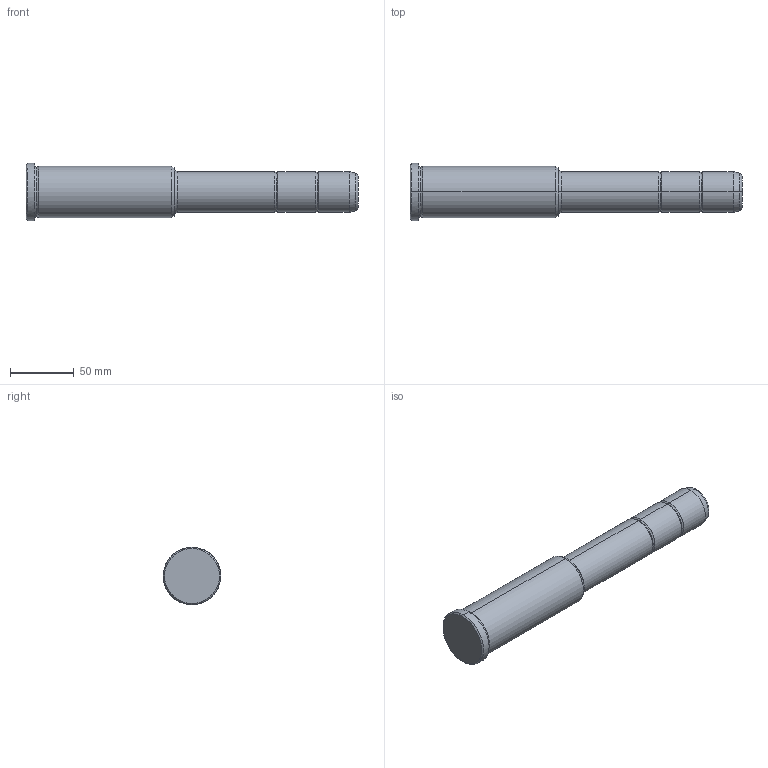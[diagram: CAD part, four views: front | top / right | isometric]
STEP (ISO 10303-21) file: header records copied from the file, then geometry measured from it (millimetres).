
FILE_DESCRIPTION(('CATIA V5 STEP Exchange'),'2;1');
FILE_NAME('C:\Users\Utente\Desktop\IO LAVORO\3D X SITO CF\X SITO\PLASTICA\351\351-32X116X260.stp','2021-09-15T11:38:09+00:00',('none'),('none'),'CATIA Version 5 Release 20 GA (IN-10)','CATIA V5 STEP AP203','none');
FILE_SCHEMA(('CONFIG_CONTROL_DESIGN'));
Length unit declared in the file: millimetre
Products named in the file (1): 351-32X116X260
Bounding box: 260 x 45 x 45 mm (x, y, z)
Volume: 262712.9 mm3; surface area: 31914.9 mm2
Topology: 1 solids, 1 shells, 36 faces, 102 edges, 70 vertices
Faces by surface type: torus 16, cylinder 10, cone 6, plane 4
Entity records: 1292 total; most frequent: CARTESIAN_POINT 321, ORIENTED_EDGE 204, DIRECTION 166, AXIS2_PLACEMENT_3D 115, EDGE_CURVE 102, CIRCLE 78, VERTEX_POINT 70, EDGE_LOOP 38
